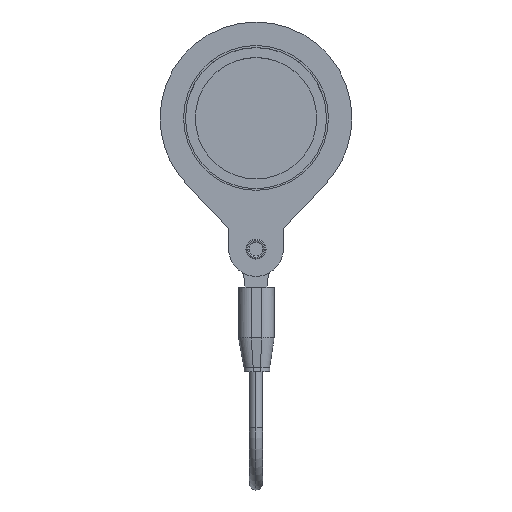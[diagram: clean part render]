
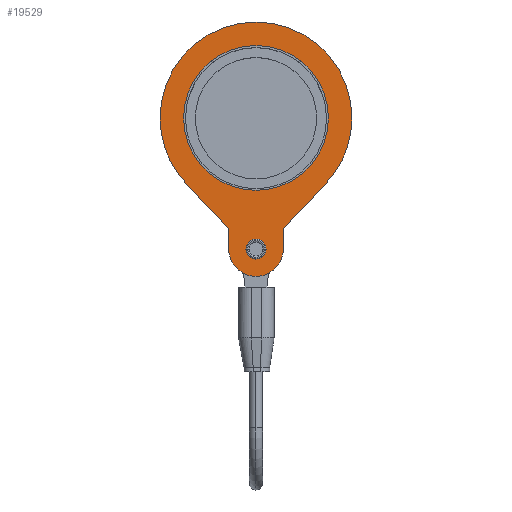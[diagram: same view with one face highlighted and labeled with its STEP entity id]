
A CAD part, top view. The second image highlights one B-rep face of the part: STEP entity #19529.
In plain terms, the highlighted planar face has unit normal (0, 0, 1) as drawn and (0, 0, -1) by its records, which use the part's own axes.
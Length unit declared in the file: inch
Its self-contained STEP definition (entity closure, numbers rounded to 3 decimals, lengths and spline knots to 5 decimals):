
#236 = DIRECTION ( 'NONE',  ( 0.69, 0.724, 0. ) ) ;
#339 = EDGE_LOOP ( 'NONE', ( #42769, #2913 ) ) ;
#2156 = AXIS2_PLACEMENT_3D ( 'NONE', #48851, #37059, #28539 ) ;
#2629 = CARTESIAN_POINT ( 'NONE',  ( 0., -0.94488, -0.01378 ) ) ;
#2898 = FACE_BOUND ( 'NONE', #47455, .T. ) ;
#2913 = ORIENTED_EDGE ( 'NONE', *, *, #50985, .T. ) ;
#3713 = LINE ( 'NONE', #29317, #51567 ) ;
#4199 = CIRCLE ( 'NONE', #46354, 0.69094 ) ;
#4993 = VECTOR ( 'NONE', #19697, 39.37008 ) ;
#5483 = DIRECTION ( 'NONE',  ( 0., 0., 1. ) ) ;
#6131 = VERTEX_POINT ( 'NONE', #50978 ) ;
#6210 = LINE ( 'NONE', #52383, #31135 ) ;
#6474 = PLANE ( 'NONE',  #50681 ) ;
#6698 = VERTEX_POINT ( 'NONE', #51116 ) ;
#6743 = FACE_BOUND ( 'NONE', #339, .T. ) ;
#7376 = CARTESIAN_POINT ( 'NONE',  ( 0.19685, -0.79528, -0.01378 ) ) ;
#7669 = ORIENTED_EDGE ( 'NONE', *, *, #32215, .T. ) ;
#7752 = DIRECTION ( 'NONE',  ( 0., 0., 1. ) ) ;
#8647 = AXIS2_PLACEMENT_3D ( 'NONE', #27605, #52318, #39696 ) ;
#9039 = CARTESIAN_POINT ( 'NONE',  ( -0.50041, -0.47644, -0.01378 ) ) ;
#9508 = VERTEX_POINT ( 'NONE', #30669 ) ;
#10150 = CARTESIAN_POINT ( 'NONE',  ( 0., -0.94488, -0.01378 ) ) ;
#10373 = CARTESIAN_POINT ( 'NONE',  ( 0., 0., -0.01378 ) ) ;
#10670 = VERTEX_POINT ( 'NONE', #22121 ) ;
#11308 = VERTEX_POINT ( 'NONE', #52981 ) ;
#11937 = CARTESIAN_POINT ( 'NONE',  ( 0.69094, 0., -0.01378 ) ) ;
#14286 = EDGE_CURVE ( 'NONE', #33664, #23383, #6210, .T. ) ;
#14332 = ORIENTED_EDGE ( 'NONE', *, *, #37768, .F. ) ;
#15018 = DIRECTION ( 'NONE',  ( 0., 1., 0. ) ) ;
#15539 = ORIENTED_EDGE ( 'NONE', *, *, #19541, .F. ) ;
#16850 = ORIENTED_EDGE ( 'NONE', *, *, #43970, .F. ) ;
#17576 = CARTESIAN_POINT ( 'NONE',  ( 0.19685, -0.79528, -0.01378 ) ) ;
#17880 = CARTESIAN_POINT ( 'NONE',  ( 0., 0., -0.01378 ) ) ;
#18017 = ORIENTED_EDGE ( 'NONE', *, *, #31093, .T. ) ;
#18101 = CIRCLE ( 'NONE', #51484, 0.06102 ) ;
#18136 = DIRECTION ( 'NONE',  ( 0., 0., 1. ) ) ;
#19431 = LINE ( 'NONE', #52938, #4993 ) ;
#19529 = ADVANCED_FACE ( 'NONE', ( #6743, #2898, #41123 ), #6474, .F. ) ;
#19541 = EDGE_CURVE ( 'NONE', #9508, #11308, #19431, .T. ) ;
#19697 = DIRECTION ( 'NONE',  ( 0., -1., 0. ) ) ;
#21082 = VERTEX_POINT ( 'NONE', #41571 ) ;
#21462 = ORIENTED_EDGE ( 'NONE', *, *, #53739, .F. ) ;
#21665 = DIRECTION ( 'NONE',  ( 1., 0., 0. ) ) ;
#21853 = EDGE_CURVE ( 'NONE', #10670, #39295, #42611, .T. ) ;
#22121 = CARTESIAN_POINT ( 'NONE',  ( 0.06102, -0.94488, -0.01378 ) ) ;
#23279 = DIRECTION ( 'NONE',  ( 0., 0., 1. ) ) ;
#23383 = VERTEX_POINT ( 'NONE', #17576 ) ;
#24172 = LINE ( 'NONE', #7376, #33165 ) ;
#24968 = CARTESIAN_POINT ( 'NONE',  ( 0., 0., -0.01378 ) ) ;
#25724 = CIRCLE ( 'NONE', #52917, 0.69094 ) ;
#25829 = ORIENTED_EDGE ( 'NONE', *, *, #33743, .F. ) ;
#27605 = CARTESIAN_POINT ( 'NONE',  ( 0., 0., -0.01378 ) ) ;
#28145 = CARTESIAN_POINT ( 'NONE',  ( 0., -0.94488, -0.01378 ) ) ;
#28539 = DIRECTION ( 'NONE',  ( 1., 0., 0. ) ) ;
#29317 = CARTESIAN_POINT ( 'NONE',  ( -0.19685, -0.79528, -0.01378 ) ) ;
#30669 = CARTESIAN_POINT ( 'NONE',  ( -0.19685, -0.79528, -0.01378 ) ) ;
#31093 = EDGE_CURVE ( 'NONE', #6698, #21082, #32355, .T. ) ;
#31135 = VECTOR ( 'NONE', #15018, 39.37008 ) ;
#32215 = EDGE_CURVE ( 'NONE', #21082, #6698, #44511, .T. ) ;
#32355 = CIRCLE ( 'NONE', #8647, 0.52165 ) ;
#33165 = VECTOR ( 'NONE', #236, 39.37008 ) ;
#33664 = VERTEX_POINT ( 'NONE', #33833 ) ;
#33705 = CARTESIAN_POINT ( 'NONE',  ( -0.06102, -0.94488, -0.01378 ) ) ;
#33711 = ORIENTED_EDGE ( 'NONE', *, *, #14286, .F. ) ;
#33743 = EDGE_CURVE ( 'NONE', #40675, #6131, #4199, .T. ) ;
#33833 = CARTESIAN_POINT ( 'NONE',  ( 0.19685, -0.94488, -0.01378 ) ) ;
#36104 = AXIS2_PLACEMENT_3D ( 'NONE', #40455, #44287, #52537 ) ;
#37059 = DIRECTION ( 'NONE',  ( 0., 0., 1. ) ) ;
#37365 = ORIENTED_EDGE ( 'NONE', *, *, #52694, .F. ) ;
#37768 = EDGE_CURVE ( 'NONE', #11308, #33664, #39415, .T. ) ;
#38408 = AXIS2_PLACEMENT_3D ( 'NONE', #24968, #41986, #21665 ) ;
#39295 = VERTEX_POINT ( 'NONE', #33705 ) ;
#39415 = CIRCLE ( 'NONE', #50830, 0.19685 ) ;
#39696 = DIRECTION ( 'NONE',  ( 1., 0., 0. ) ) ;
#40455 = CARTESIAN_POINT ( 'NONE',  ( 0., 0., -0.01378 ) ) ;
#40675 = VERTEX_POINT ( 'NONE', #11937 ) ;
#40848 = DIRECTION ( 'NONE',  ( 1., 0., 0. ) ) ;
#41123 = FACE_OUTER_BOUND ( 'NONE', #45991, .T. ) ;
#41571 = CARTESIAN_POINT ( 'NONE',  ( 0.52165, 0., -0.01378 ) ) ;
#41986 = DIRECTION ( 'NONE',  ( 0., 0., 1. ) ) ;
#42491 = DIRECTION ( 'NONE',  ( 0.69, -0.724, 0. ) ) ;
#42611 = CIRCLE ( 'NONE', #2156, 0.06102 ) ;
#42769 = ORIENTED_EDGE ( 'NONE', *, *, #21853, .T. ) ;
#42924 = VERTEX_POINT ( 'NONE', #49822 ) ;
#43970 = EDGE_CURVE ( 'NONE', #42924, #40675, #51016, .T. ) ;
#44287 = DIRECTION ( 'NONE',  ( 0., 0., 1. ) ) ;
#44511 = CIRCLE ( 'NONE', #38408, 0.52165 ) ;
#44993 = DIRECTION ( 'NONE',  ( 0., 0., 1. ) ) ;
#45991 = EDGE_LOOP ( 'NONE', ( #14332, #15539, #37365, #51052, #25829, #16850, #21462, #33711 ) ) ;
#46354 = AXIS2_PLACEMENT_3D ( 'NONE', #17880, #18136, #52950 ) ;
#47455 = EDGE_LOOP ( 'NONE', ( #7669, #18017 ) ) ;
#47560 = DIRECTION ( 'NONE',  ( 1., 0., 0. ) ) ;
#48851 = CARTESIAN_POINT ( 'NONE',  ( 0., -0.94488, -0.01378 ) ) ;
#49277 = DIRECTION ( 'NONE',  ( 1., 0., 0. ) ) ;
#49462 = EDGE_CURVE ( 'NONE', #6131, #50376, #25724, .T. ) ;
#49822 = CARTESIAN_POINT ( 'NONE',  ( 0.50041, -0.47644, -0.01378 ) ) ;
#50376 = VERTEX_POINT ( 'NONE', #9039 ) ;
#50681 = AXIS2_PLACEMENT_3D ( 'NONE', #2629, #23279, #40848 ) ;
#50830 = AXIS2_PLACEMENT_3D ( 'NONE', #10150, #5483, #47560 ) ;
#50978 = CARTESIAN_POINT ( 'NONE',  ( -0.69094, 0., -0.01378 ) ) ;
#50985 = EDGE_CURVE ( 'NONE', #39295, #10670, #18101, .T. ) ;
#51016 = CIRCLE ( 'NONE', #36104, 0.69094 ) ;
#51052 = ORIENTED_EDGE ( 'NONE', *, *, #49462, .F. ) ;
#51116 = CARTESIAN_POINT ( 'NONE',  ( -0.52165, 0., -0.01378 ) ) ;
#51484 = AXIS2_PLACEMENT_3D ( 'NONE', #28145, #7752, #49277 ) ;
#51567 = VECTOR ( 'NONE', #42491, 39.37008 ) ;
#52318 = DIRECTION ( 'NONE',  ( 0., 0., 1. ) ) ;
#52383 = CARTESIAN_POINT ( 'NONE',  ( 0.19685, -0.79528, -0.01378 ) ) ;
#52537 = DIRECTION ( 'NONE',  ( 1., 0., 0. ) ) ;
#52694 = EDGE_CURVE ( 'NONE', #50376, #9508, #3713, .T. ) ;
#52917 = AXIS2_PLACEMENT_3D ( 'NONE', #10373, #44993, #53232 ) ;
#52938 = CARTESIAN_POINT ( 'NONE',  ( -0.19685, -0.79528, -0.01378 ) ) ;
#52950 = DIRECTION ( 'NONE',  ( 1., 0., 0. ) ) ;
#52981 = CARTESIAN_POINT ( 'NONE',  ( -0.19685, -0.94488, -0.01378 ) ) ;
#53232 = DIRECTION ( 'NONE',  ( 1., 0., 0. ) ) ;
#53739 = EDGE_CURVE ( 'NONE', #23383, #42924, #24172, .T. ) ;
